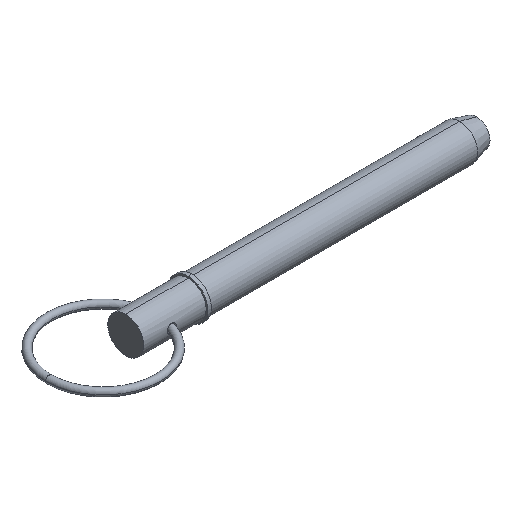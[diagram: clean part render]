
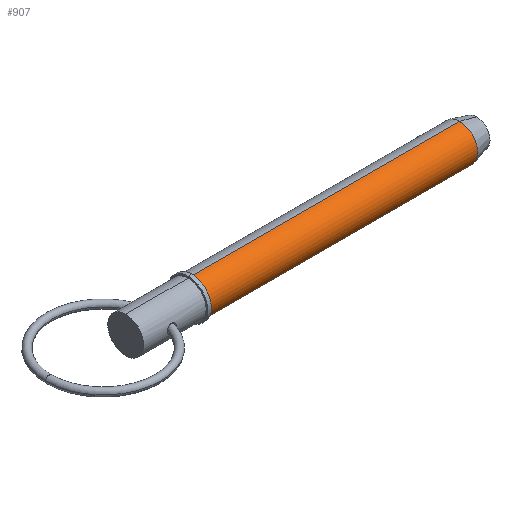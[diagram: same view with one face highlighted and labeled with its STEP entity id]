
A CAD part, isometric view. The second image highlights one B-rep face of the part: STEP entity #907.
In plain terms, the highlighted cylindrical face has radius 9.525 mm (diameter 19.05 mm), a partial arc.
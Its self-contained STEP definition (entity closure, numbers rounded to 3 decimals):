
#13 = VECTOR ( 'NONE', #544, 1000. ) ;
#18 = ORIENTED_EDGE ( 'NONE', *, *, #274, .F. ) ;
#27 = VERTEX_POINT ( 'NONE', #800 ) ;
#51 = ORIENTED_EDGE ( 'NONE', *, *, #174, .F. ) ;
#82 = CYLINDRICAL_SURFACE ( 'NONE', #896, 9.525 ) ;
#114 = DIRECTION ( 'NONE',  ( 1., 0., 0. ) ) ;
#151 = DIRECTION ( 'NONE',  ( 1., 0., 0. ) ) ;
#174 = EDGE_CURVE ( 'NONE', #415, #27, #735, .T. ) ;
#194 = DIRECTION ( 'NONE',  ( 0., 0., -1. ) ) ;
#203 = CARTESIAN_POINT ( 'NONE',  ( 34.93, 0., 9.525 ) ) ;
#242 = EDGE_CURVE ( 'NONE', #716, #806, #628, .T. ) ;
#259 = CARTESIAN_POINT ( 'NONE',  ( 176.843, 0., 9.525 ) ) ;
#274 = EDGE_CURVE ( 'NONE', #716, #415, #959, .T. ) ;
#285 = VECTOR ( 'NONE', #655, 1000. ) ;
#299 = CARTESIAN_POINT ( 'NONE',  ( 34.93, 0., -9.525 ) ) ;
#309 = FACE_OUTER_BOUND ( 'NONE', #832, .T. ) ;
#376 = ORIENTED_EDGE ( 'NONE', *, *, #493, .T. ) ;
#378 = CARTESIAN_POINT ( 'NONE',  ( 0., 0., 9.525 ) ) ;
#409 = LINE ( 'NONE', #740, #285 ) ;
#415 = VERTEX_POINT ( 'NONE', #259 ) ;
#456 = DIRECTION ( 'NONE',  ( 0., 0., -1. ) ) ;
#488 = CARTESIAN_POINT ( 'NONE',  ( 0., 0., 0. ) ) ;
#493 = EDGE_CURVE ( 'NONE', #806, #27, #409, .T. ) ;
#544 = DIRECTION ( 'NONE',  ( 1., 0., 0. ) ) ;
#612 = ORIENTED_EDGE ( 'NONE', *, *, #242, .T. ) ;
#628 = CIRCLE ( 'NONE', #887, 9.525 ) ;
#655 = DIRECTION ( 'NONE',  ( 1., 0., 0. ) ) ;
#716 = VERTEX_POINT ( 'NONE', #203 ) ;
#735 = CIRCLE ( 'NONE', #872, 9.525 ) ;
#740 = CARTESIAN_POINT ( 'NONE',  ( 0., 0., -9.525 ) ) ;
#800 = CARTESIAN_POINT ( 'NONE',  ( 176.843, 0., -9.525 ) ) ;
#806 = VERTEX_POINT ( 'NONE', #299 ) ;
#827 = DIRECTION ( 'NONE',  ( 0., 0., -1. ) ) ;
#832 = EDGE_LOOP ( 'NONE', ( #18, #612, #376, #51 ) ) ;
#849 = CARTESIAN_POINT ( 'NONE',  ( 176.843, 0., 0. ) ) ;
#872 = AXIS2_PLACEMENT_3D ( 'NONE', #849, #114, #194 ) ;
#874 = DIRECTION ( 'NONE',  ( 1., 0., 0. ) ) ;
#887 = AXIS2_PLACEMENT_3D ( 'NONE', #1034, #874, #456 ) ;
#896 = AXIS2_PLACEMENT_3D ( 'NONE', #488, #151, #827 ) ;
#907 = ADVANCED_FACE ( 'NONE', ( #309 ), #82, .T. ) ;
#959 = LINE ( 'NONE', #378, #13 ) ;
#1034 = CARTESIAN_POINT ( 'NONE',  ( 34.93, 0., 0. ) ) ;
